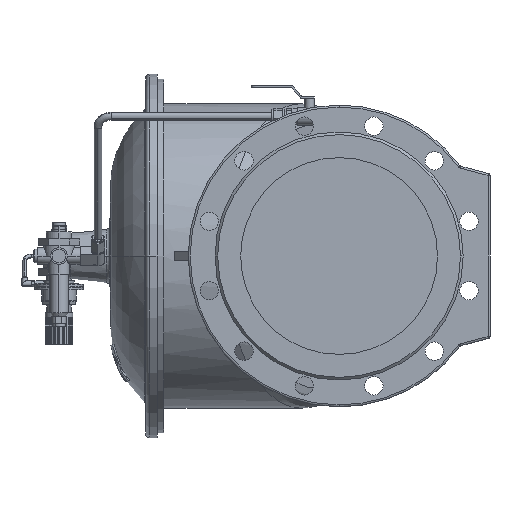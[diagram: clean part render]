
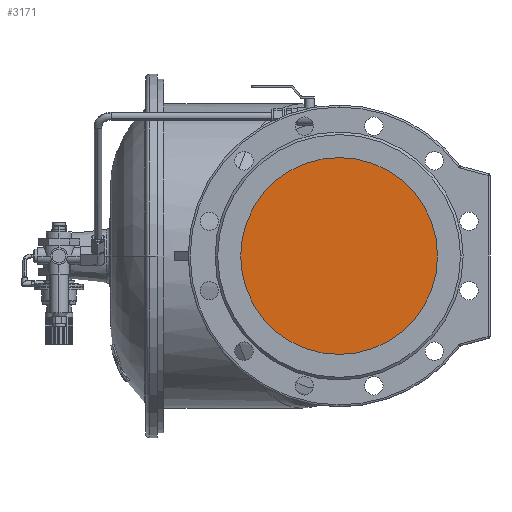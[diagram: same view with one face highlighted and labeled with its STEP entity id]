
A CAD part, left-side view. The second image highlights one B-rep face of the part: STEP entity #3171.
In plain terms, the highlighted planar face has unit normal (-1, 0, 0).
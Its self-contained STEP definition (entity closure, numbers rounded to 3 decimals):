
#1259 = ORIENTED_EDGE ( 'NONE', *, *, #2091, .T. ) ;
#1349 = AXIS2_PLACEMENT_3D ( 'NONE', #36342, #12805, #6133 ) ;
#1445 = EDGE_CURVE ( 'Defeatured_0_858+Defeatured_0_859+Defeatured_0_859+Defeatured_0_859', #30798, #29498, #26593, .T. ) ;
#2091 = EDGE_CURVE ( 'Defeatured_0_858+Defeatured_0_859+Defeatured_0_859+Defeatured_0_859', #29498, #30798, #23932, .T. ) ;
#2429 = DIRECTION ( 'NONE',  ( -1., 0., 0. ) ) ;
#3171 = ADVANCED_FACE ( 'Defeatured_0_858', ( #17738 ), #20318, .T. ) ;
#5580 = CARTESIAN_POINT ( 'NONE',  ( -407., 0., 0. ) ) ;
#6133 = DIRECTION ( 'NONE',  ( 0., -1., 0. ) ) ;
#9735 = CARTESIAN_POINT ( 'NONE',  ( -407., 0., -150. ) ) ;
#12805 = DIRECTION ( 'NONE',  ( -1., 0., 0. ) ) ;
#16529 = CARTESIAN_POINT ( 'NONE',  ( -407., 0., 0. ) ) ;
#16949 = DIRECTION ( 'NONE',  ( 0., -1., 0. ) ) ;
#17354 = ORIENTED_EDGE ( 'NONE', *, *, #1445, .T. ) ;
#17738 = FACE_OUTER_BOUND ( 'NONE', #36505, .T. ) ;
#19666 = AXIS2_PLACEMENT_3D ( 'NONE', #16529, #30890, #25175 ) ;
#20144 = AXIS2_PLACEMENT_3D ( 'NONE', #5580, #2429, #16949 ) ;
#20318 = PLANE ( 'NONE',  #20144 ) ;
#23932 = CIRCLE ( 'NONE', #1349, 150. ) ;
#25011 = CARTESIAN_POINT ( 'NONE',  ( -407., 0., 150. ) ) ;
#25175 = DIRECTION ( 'NONE',  ( 0., -1., 0. ) ) ;
#26593 = CIRCLE ( 'NONE', #19666, 150. ) ;
#29498 = VERTEX_POINT ( 'NONE', #9735 ) ;
#30798 = VERTEX_POINT ( 'NONE', #25011 ) ;
#30890 = DIRECTION ( 'NONE',  ( -1., 0., 0. ) ) ;
#36342 = CARTESIAN_POINT ( 'NONE',  ( -407., 0., 0. ) ) ;
#36505 = EDGE_LOOP ( 'NONE', ( #17354, #1259 ) ) ;
